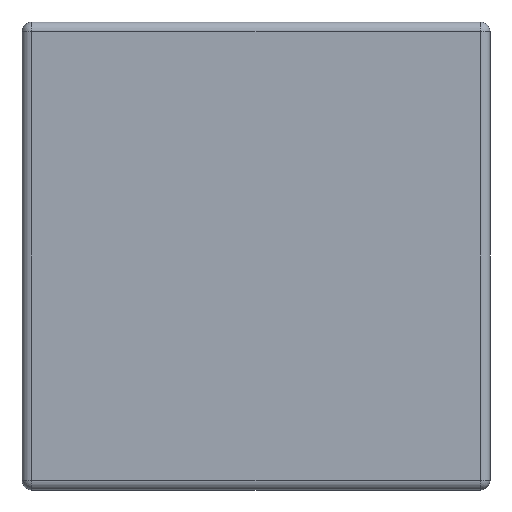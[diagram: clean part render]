
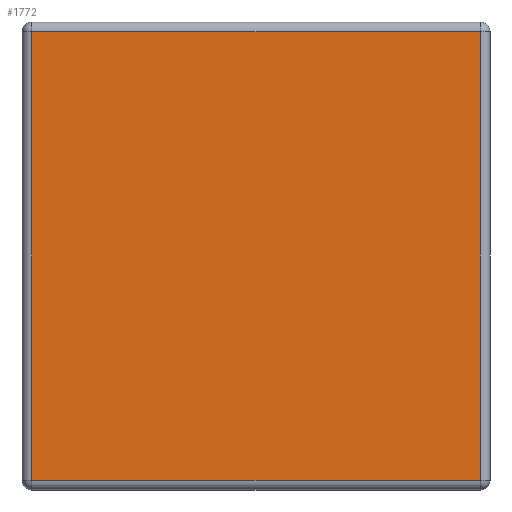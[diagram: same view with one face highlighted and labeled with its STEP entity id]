
A CAD part, front view. The second image highlights one B-rep face of the part: STEP entity #1772.
In plain terms, the highlighted planar face has unit normal (0, -1, 0).
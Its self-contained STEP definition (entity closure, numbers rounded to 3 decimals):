
#114=FACE_OUTER_BOUND('',#223,.T.);
#223=EDGE_LOOP('',(#1299,#1300,#1301,#1302));
#375=LINE('',#2869,#547);
#376=LINE('',#2871,#548);
#377=LINE('',#2873,#549);
#378=LINE('',#2874,#550);
#547=VECTOR('',#2140,1000.);
#548=VECTOR('',#2141,1000.);
#549=VECTOR('',#2142,1000.);
#550=VECTOR('',#2143,1000.);
#823=VERTEX_POINT('',#2867);
#824=VERTEX_POINT('',#2868);
#825=VERTEX_POINT('',#2870);
#826=VERTEX_POINT('',#2872);
#1007=EDGE_CURVE('',#823,#824,#375,.T.);
#1008=EDGE_CURVE('',#824,#825,#376,.T.);
#1009=EDGE_CURVE('',#825,#826,#377,.T.);
#1010=EDGE_CURVE('',#826,#823,#378,.T.);
#1299=ORIENTED_EDGE('',*,*,#1007,.T.);
#1300=ORIENTED_EDGE('',*,*,#1008,.T.);
#1301=ORIENTED_EDGE('',*,*,#1009,.T.);
#1302=ORIENTED_EDGE('',*,*,#1010,.T.);
#1708=PLANE('',#1907);
#1772=ADVANCED_FACE('',(#114),#1708,.F.);
#1907=AXIS2_PLACEMENT_3D('',#2866,#2138,#2139);
#2138=DIRECTION('center_axis',(0.,1.,0.));
#2139=DIRECTION('ref_axis',(0.,0.,1.));
#2140=DIRECTION('',(0.,0.,1.));
#2141=DIRECTION('',(-1.,0.,0.));
#2142=DIRECTION('',(0.,0.,-1.));
#2143=DIRECTION('',(1.,0.,0.));
#2866=CARTESIAN_POINT('Origin',(-30.,0.,30.));
#2867=CARTESIAN_POINT('',(28.75,0.,-28.75));
#2868=CARTESIAN_POINT('',(28.75,0.,28.75));
#2869=CARTESIAN_POINT('',(28.75,0.,30.));
#2870=CARTESIAN_POINT('',(-28.75,0.,28.75));
#2871=CARTESIAN_POINT('',(-30.,0.,28.75));
#2872=CARTESIAN_POINT('',(-28.75,0.,-28.75));
#2873=CARTESIAN_POINT('',(-28.75,0.,30.));
#2874=CARTESIAN_POINT('',(-30.,0.,-28.75));
